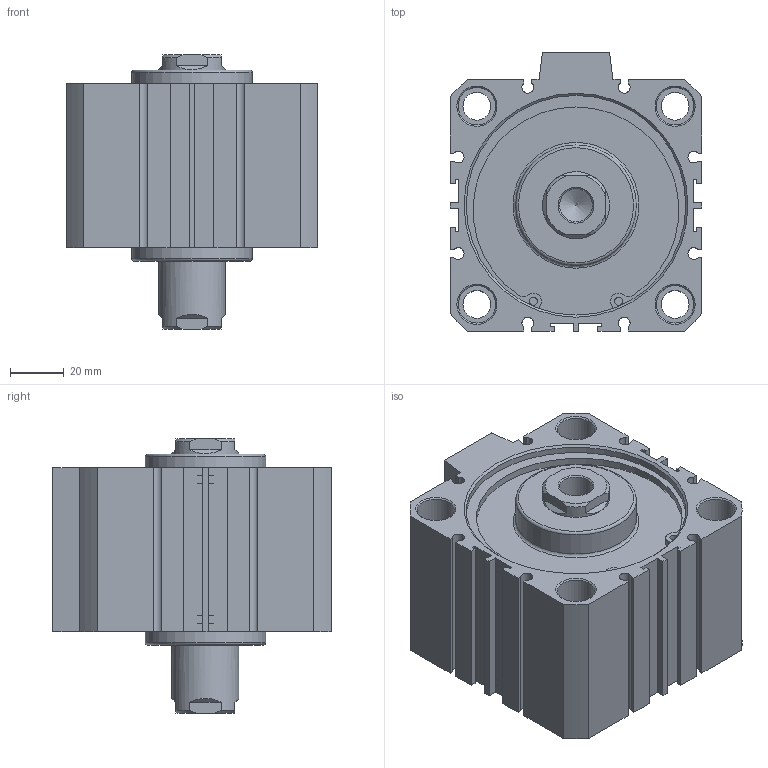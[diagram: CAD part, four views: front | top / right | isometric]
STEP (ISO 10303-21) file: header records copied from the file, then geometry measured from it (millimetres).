
FILE_DESCRIPTION((''),'2;1');
FILE_NAME('I:\3D電子目錄\氣缸\JDD\JDD\JDD80\JDD80x20.stp','2007-02-08T11:47:16',('662F206'),(''),'Autodesk Inventor 10','Autodesk Inventor 10','');
FILE_SCHEMA(('AUTOMOTIVE_DESIGN { 1 0 10303 214 1 1 1 1 }'));
Length unit declared in the file: millimetre
Products named in the file (3): JDD80; R 形環 82
Assembly tree (3 placements, depth 2):
  JDD80
    JDD80
    R 形環 82  x2
Bounding box: 94 x 104 x 102.4 mm (x, y, z)
Volume: 490870.1 mm3; surface area: 77690.5 mm2
Topology: 3 solids, 3 shells, 200 faces, 502 edges, 330 vertices
Faces by surface type: plane 116, cylinder 52, cone 24, bspline 6, torus 2
Full cylindrical faces by diameter (mm): 3.1 x4, 3.5 x2, 10.4 x4, 14 x8, 25 x2, 45 x2, 82 x4, 85.5 x2
Entity records: 5511 total; most frequent: CARTESIAN_POINT 1094, DIRECTION 908, ORIENTED_EDGE 824, EDGE_CURVE 412, AXIS2_PLACEMENT_3D 324, VERTEX_POINT 300, EDGE_LOOP 272, VECTOR 260
